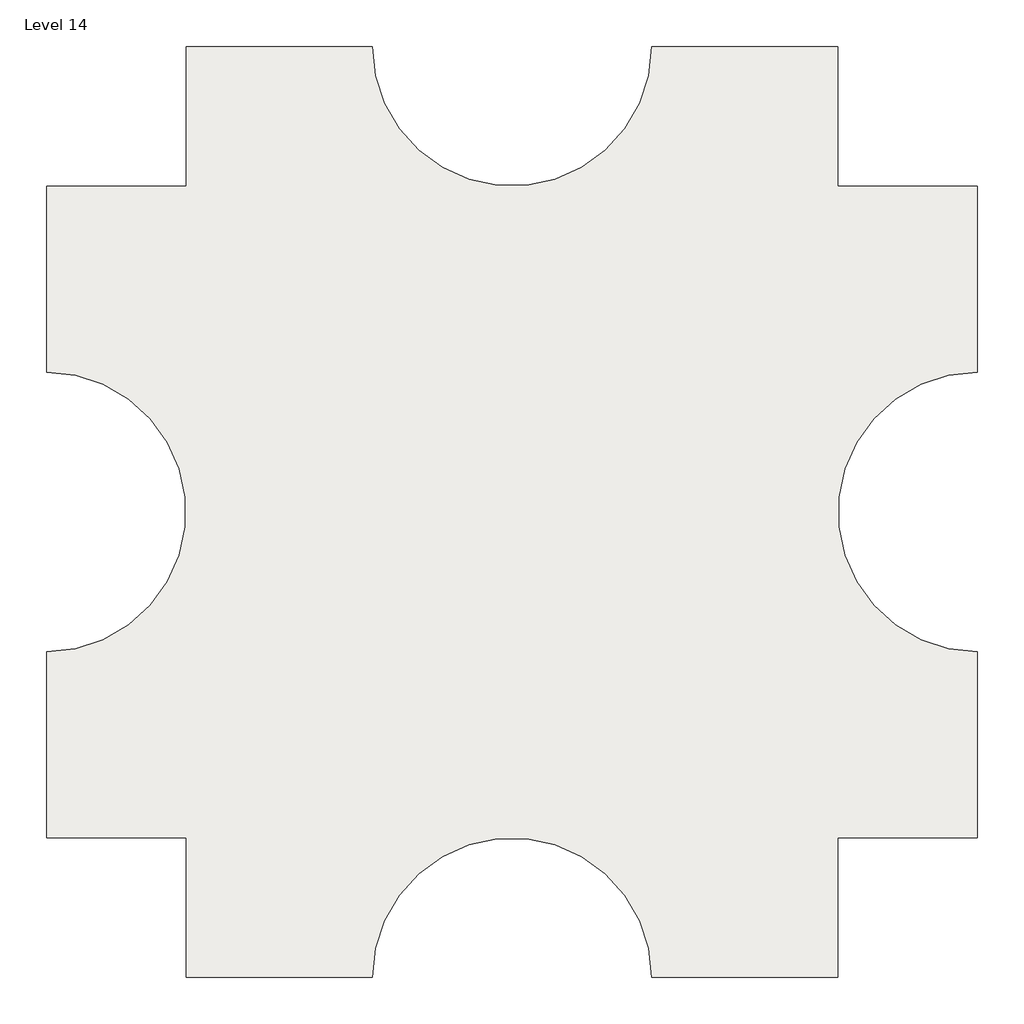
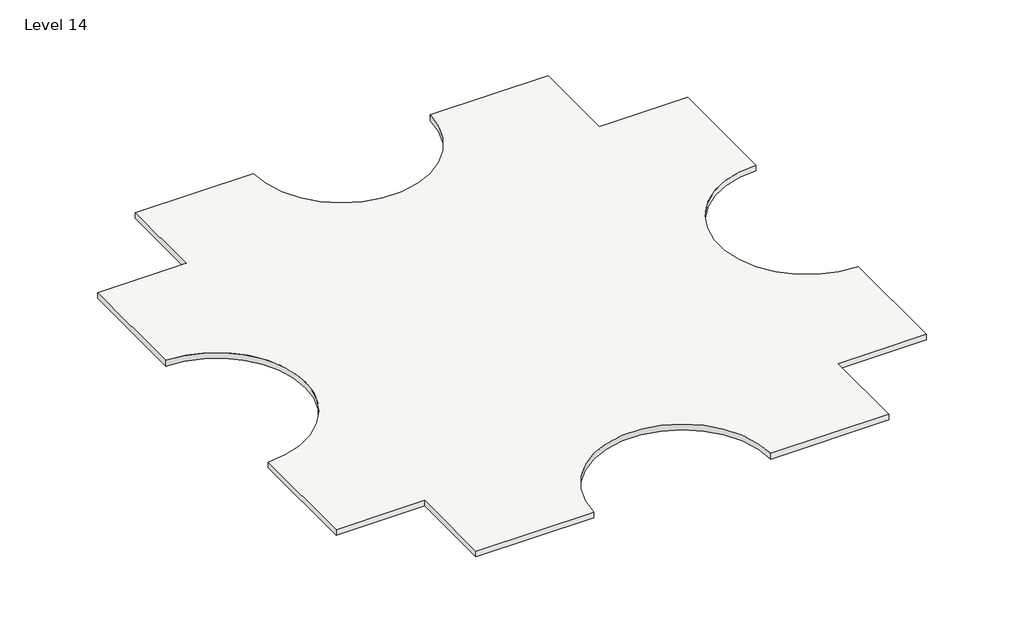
# One storey: 1 slab.
"""IFC4 building model written with IfcOpenShell, lengths in millimetres."""

from ifc_helpers import new_model, si_unit, point, frame, frame_2d, origin, place, context, project, spatial, polyline, circle_curve, trimmed, segment, composite_curve, outline, extrude, element, save

model = new_model("IFC4")

# Units and contexts
model_context = context("Model", 3, world=origin())
ifc_project = project(units=[si_unit("LENGTHUNIT", "METRE", prefix="MILLI")], contexts=[model_context])

# Site, building, storey
site = spatial("IfcSite", under=ifc_project)
building = spatial("IfcBuilding", under=site)
storey = spatial("IfcBuildingStorey", under=building, Name="Level 14", Elevation=39624.0)

# Slab
placement = place(None, origin())
element("IfcSlab", 1, ObjectType="Generic - 12\"", at=placement, inside=storey, context=model_context, shape_type="SweptSolid", body=[
    extrude(outline(composite_curve([segment(polyline([(-7150.3629456, 4479.6634547), (-7150.3629456, 9051.6634547), (-1054.3629456, 9051.6634547)]), True, "CONTINUOUS"), segment(trimmed(circle_curve(frame_2d((3517.6370544, 9051.6634547)), 4572.0), [point((-1054.3629456, 9051.6634547))], [point((8089.6370544, 9051.6634547))], True, "CARTESIAN"), True, "CONTINUOUS"), segment(polyline([(8089.6370544, 9051.6634547), (14185.6370544, 9051.6634547), (14185.6370544, 4479.6634547), (18757.6370544, 4479.6634547), (18757.6370544, -1616.3365453)]), True, "CONTINUOUS"), segment(trimmed(circle_curve(frame_2d((18757.6370544, -6188.3365453)), 4572.0), [point((18757.6370544, -1616.3365453))], [point((18757.6370544, -10760.3365453))], True, "CARTESIAN"), True, "CONTINUOUS"), segment(polyline([(18757.6370544, -10760.3365453), (18757.6370544, -16856.3365453), (14185.6370544, -16856.3365453), (14185.6370544, -21428.3365453), (8089.6370544, -21428.3365453)]), True, "CONTINUOUS"), segment(trimmed(circle_curve(frame_2d((3517.6370544, -21428.3365453)), 4572.0), [point((8089.6370544, -21428.3365453))], [point((-1054.3629456, -21428.3365453))], True, "CARTESIAN"), True, "CONTINUOUS"), segment(polyline([(-1054.3629456, -21428.3365453), (-7150.3629456, -21428.3365453), (-7150.3629456, -16856.3365453), (-11722.3629456, -16856.3365453), (-11722.3629456, -10760.3365453)]), True, "CONTINUOUS"), segment(trimmed(circle_curve(frame_2d((-11722.3629456, -6188.3365453)), 4572.0), [point((-11722.3629456, -10760.3365453))], [point((-11722.3629456, -1616.3365453))], True, "CARTESIAN"), True, "CONTINUOUS"), segment(polyline([(-11722.3629456, -1616.3365453), (-11722.3629456, 4479.6634547), (-7150.3629456, 4479.6634547)]), True, "CONTINUOUS")], self_intersect=False)), frame((0.0, 0.0, 39319.2), z_axis=(0.0, 0.0, 1.0), x_axis=(1.0, 0.0, 0.0)), (0.0, 0.0, 1.0), 304.8),
])

save(model, "model.ifc")
